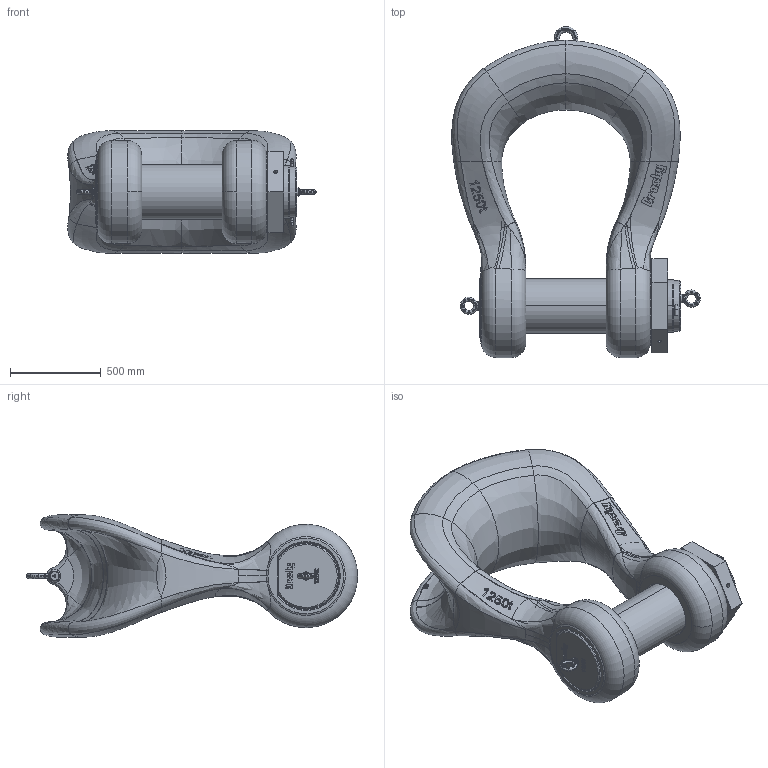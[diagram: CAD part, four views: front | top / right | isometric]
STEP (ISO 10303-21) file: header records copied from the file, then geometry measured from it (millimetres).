
FILE_DESCRIPTION((''),'2;1');
FILE_NAME('1021390_ASM','2024-09-04T11:46:04',('justin.lewis'),('The Crosby Group LLC'),'CREO PARAMETRIC BY PTC INC, 2021304','CREO PARAMETRIC BY PTC INC, 2021304','');
FILE_SCHEMA(('CONFIG_CONTROL_DESIGN','GEOMETRIC_VALIDATION_PROPERTIES_MIM'));
Length unit declared in the file: millimetre
Products named in the file (11): 0829-001250-D000-11; 0829-011250-D000-11; 1046029; 2038456; 1800015; 88346; 46872; 1019588_ASM; 3701538; 3707987; 1021390_ASM
Assembly tree (11 placements, depth 3):
  1021390_ASM
    0829-001250-D000-11
    0829-011250-D000-11
    1046029  x2
    1019588_ASM
      2038456
      1800015
      88346
      46872
    3701538
    3707987
Bounding box: 1368.89 x 1825.4 x 675 mm (x, y, z)
Volume: 393008279 mm3; surface area: 8028289.7 mm2
Topology: 10 solids, 21 shells, 2498 faces, 9896 edges, 8175 vertices
Faces by surface type: plane 943, extrusion 882, bspline 333, torus 158, cone 96, cylinder 86
Entity records: 242802 total; most frequent: CARTESIAN_POINT 149853, ORIENTED_EDGE 10904, PRESENTATION_STYLE_ASSIGNMENT 10634, STYLED_ITEM 10634, CURVE_STYLE 8586, DIRECTION 6929, EDGE_CURVE 5475, B_SPLINE_CURVE_WITH_KNOTS 5050
